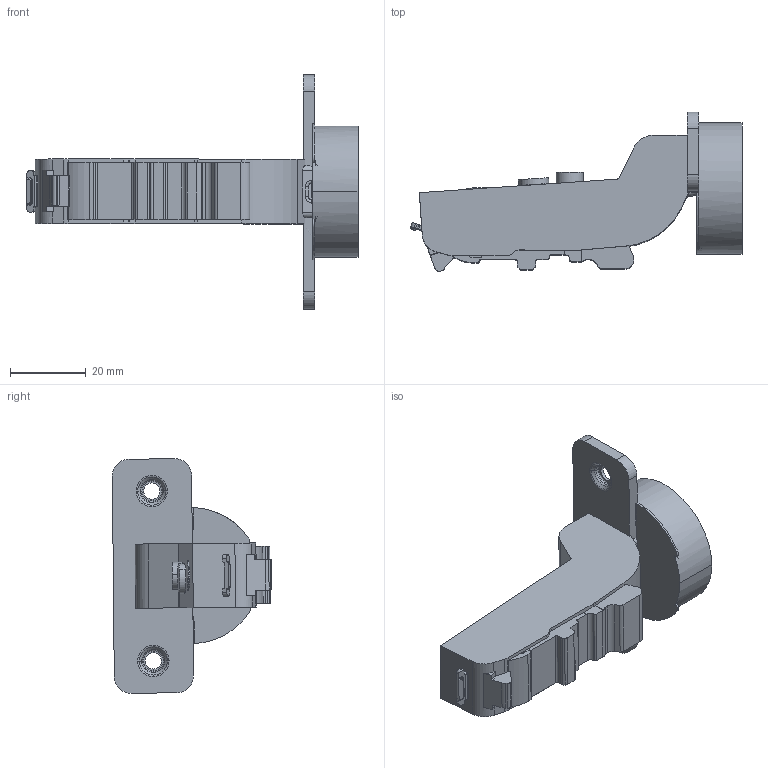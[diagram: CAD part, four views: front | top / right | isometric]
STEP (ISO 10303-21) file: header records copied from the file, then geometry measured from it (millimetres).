
FILE_DESCRIPTION (( 'STEP AP203' ), '1' );
FILE_NAME ('C81C875FAB DTC 3D CLOSE.STEP', '2024-07-26T01:31:29', ( '微软用户' ), ( '微软中国' ), 'SwSTEP 2.0', 'SolidWorks 2021', '' );
FILE_SCHEMA (( 'CONFIG_CONTROL_DESIGN' ));
Length unit declared in the file: millimetre
Products named in the file (1): C81C875FAB DTC 3D CLOSE
Bounding box: 87.94 x 42.19 x 62.11 mm (x, y, z)
Volume: 40241 mm3; surface area: 11424.2 mm2
Topology: 1 solids, 2 shells, 253 faces, 698 edges, 457 vertices
Faces by surface type: cylinder 109, plane 102, torus 28, bspline 10, cone 4
Entity records: 8494 total; most frequent: CARTESIAN_POINT 1888, ORIENTED_EDGE 1396, DIRECTION 1386, EDGE_CURVE 698, AXIS2_PLACEMENT_3D 510, VERTEX_POINT 457, LINE 366, VECTOR 366
